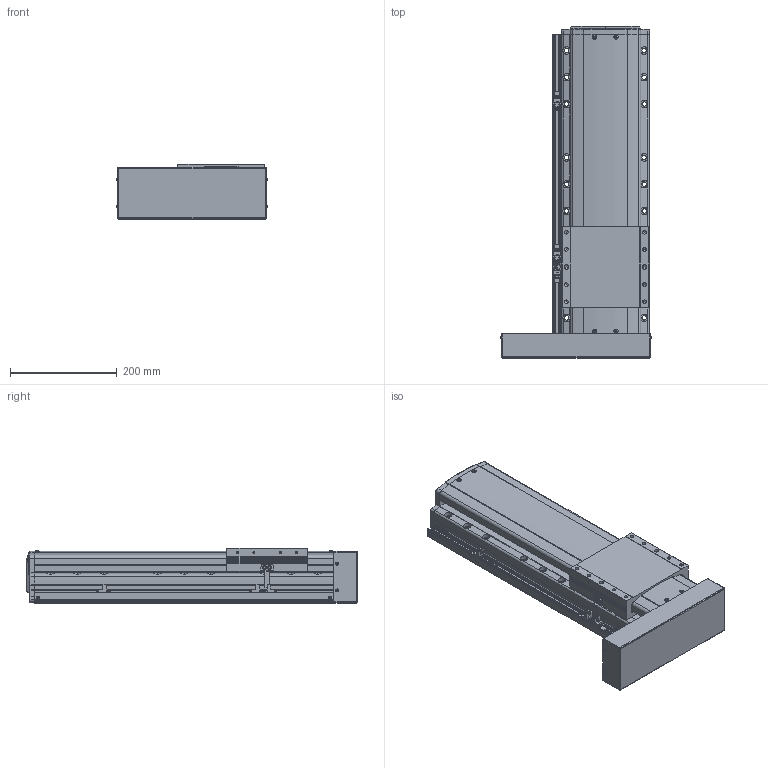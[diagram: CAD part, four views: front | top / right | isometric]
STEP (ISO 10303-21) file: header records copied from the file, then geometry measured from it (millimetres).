
FILE_DESCRIPTION(('STEP AP214'),'1');
FILE_NAME('Z:/Web/3D/PSA165/STP/PSA165-300 (3D)/PSA165ㅁㅁ-300PL+3SL.stp','2014-06-23T09:28:21',(' '),(' '),'Spatial InterOp 3D',' ',' ');
FILE_SCHEMA(('automotive_design'));
Length unit declared in the file: millimetre
Products named in the file (41): 스크루 : Round - M4.0 x 12.0; RRCV-PA160; BASE; 스크루 : Round - M4.0 x 10.0; RN15; Screw 20; SLIDE; FRCV; MTPL; 스크루 : Round - M3.0 x 6.0; M3.0 x 6.0; SRL-16x17-360L; SGD-SAN150; EE-SX674; SBK-SX674-352; BHCS M4.0 x 10.0
Bounding box: 281.93 x 620.8 x 104 mm (x, y, z)
Volume: 9344110.7 mm3; surface area: 745863.7 mm2
Topology: 41 solids, 41 shells, 2448 faces, 6545 edges, 4209 vertices
Faces by surface type: plane 1435, cylinder 707, cone 201, sphere 64, bspline 25, torus 16
Entity records: 99133 total; most frequent: CARTESIAN_POINT 17013, DIRECTION 13043, ORIENTED_EDGE 12830, EDGE_CURVE 6415, LINE 4377, VECTOR 4377, AXIS2_PLACEMENT_3D 4333, VERTEX_POINT 4209
